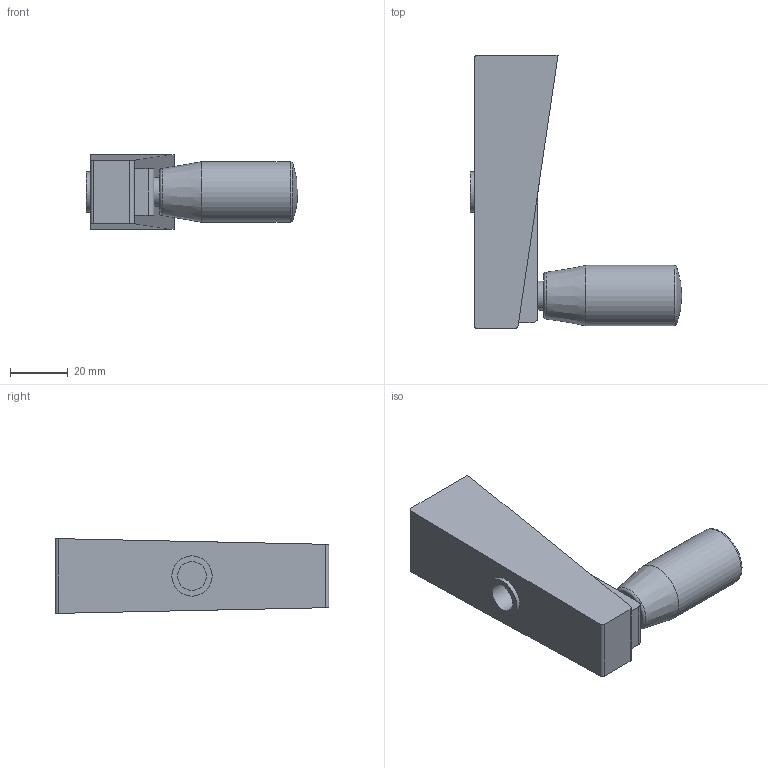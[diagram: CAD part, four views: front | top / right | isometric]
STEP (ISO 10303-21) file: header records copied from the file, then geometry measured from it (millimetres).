
FILE_DESCRIPTION( ( 'STEP AP203' ), '1' );
FILE_NAME( 'C:/Temp/Ganter_Step_05_03_2020/data/1_3/gn_510/Cranked handle GN 510-95-B10.stp', '2020-03-05T10:45:18', ( 'License CC BY-ND 4.0' ), ( 'CADENAS' ), ' ', 'PARTsolutions', ' ' );
FILE_SCHEMA( ( 'CONFIG_CONTROL_DESIGN' ) );
Length unit declared in the file: millimetre
Products named in the file (1): _Cranked handle GN 510-95-B10
Bounding box: 73.5 x 95 x 26 mm (x, y, z)
Volume: 67065.6 mm3; surface area: 14240.6 mm2
Topology: 1 solids, 1 shells, 28 faces, 66 edges, 43 vertices
Faces by surface type: plane 16, cylinder 8, torus 2, sphere 1, cone 1
Full cylindrical faces by diameter (mm): 10 x2, 14 x1, 21 x1
Entity records: 795 total; most frequent: DIRECTION 133, CARTESIAN_POINT 127, ORIENTED_EDGE 112, EDGE_CURVE 56, AXIS2_PLACEMENT_3D 48, VERTEX_POINT 42, EDGE_LOOP 39, LINE 37
